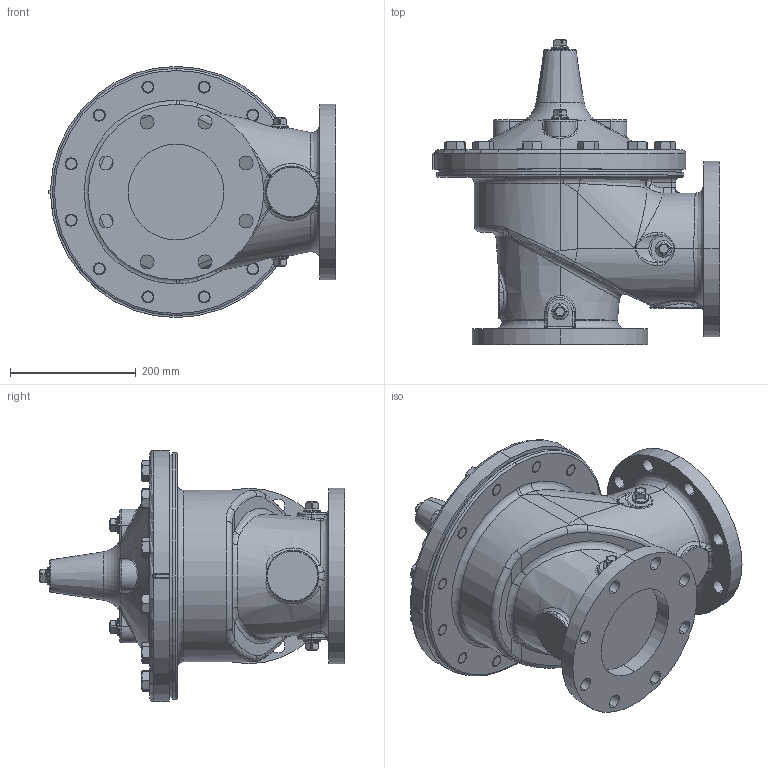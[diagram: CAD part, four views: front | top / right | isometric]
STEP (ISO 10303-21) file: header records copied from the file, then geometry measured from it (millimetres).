
FILE_DESCRIPTION (( 'STEP AP203' ), '1' );
FILE_NAME ('6in 100-01 Main Valve 150AA.STEP', '2016-07-14T17:14:17', ( '' ), ( '' ), 'SwSTEP 2.0', 'SolidWorks 2016', '' );
FILE_SCHEMA (( 'CONFIG_CONTROL_DESIGN' ));
Length unit declared in the file: inch
Products named in the file (6): .750 NPT PIPE PLUG (67660)_Default STEEL, CAD PL; Diaphragm, 6in 100-01, 150 (.125 thk); 6in 100-01 Main Valve 150AA; 6in Body HyAn150 STD (BLUE); 6in Cover (BLUE) with 2 or 4 Bosses Drld_2 BOSSES TAPPED; Bolt .750-10 UNC  (67609)_1.75   67609-04A
Assembly tree (22 placements, depth 2):
  6in 100-01 Main Valve 150AA
    6in Body HyAn150 STD (BLUE)
    6in Cover (BLUE) with 2 or 4 Bosses Drld_2 BOSSES TAPPED
    Bolt .750-10 UNC  (67609)_1.75   67609-04A  x12
    .750 NPT PIPE PLUG (67660)_Default STEEL, CAD PL  x7
    Diaphragm, 6in 100-01, 150 (.125 thk)
Bounding box: 457.2 x 486.41 x 400.05 mm (x, y, z)
Volume: 23742190.1 mm3; surface area: 1460435.9 mm2
Topology: 22 solids, 26 shells, 1479 faces, 3305 edges, 1856 vertices
Faces by surface type: cone 442, cylinder 293, bspline 291, plane 247, torus 136, sphere 70
Entity records: 28879 total; most frequent: CARTESIAN_POINT 13999, ORIENTED_EDGE 3006, DIRECTION 2751, EDGE_CURVE 1503, AXIS2_PLACEMENT_3D 1204, VERTEX_POINT 896, EDGE_LOOP 763, CIRCLE 734
